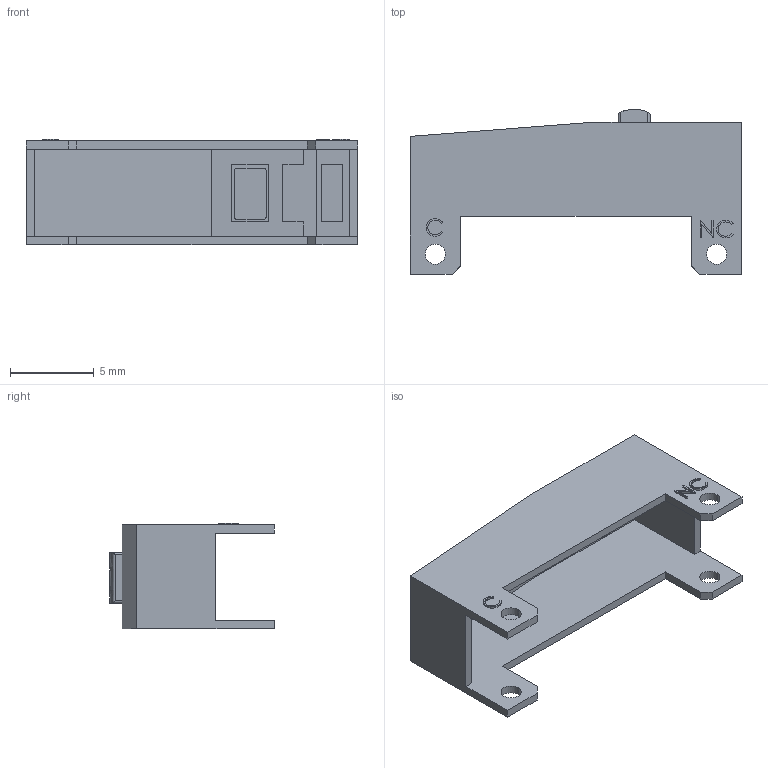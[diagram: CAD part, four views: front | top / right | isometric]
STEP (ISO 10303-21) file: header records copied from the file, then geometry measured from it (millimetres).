
FILE_DESCRIPTION (( 'STEP AP214' ), '1' );
FILE_NAME ('limit-switch-top-case.STEP', '2018-02-15T22:13:11', ( '' ), ( '' ), 'SwSTEP 2.0', 'SolidWorks 2018', '' );
FILE_SCHEMA (( 'AUTOMOTIVE_DESIGN' ));
Length unit declared in the file: millimetre
Products named in the file (1): limit-switch-top-case
Bounding box: 19.75 x 9.81 x 6.3 mm (x, y, z)
Volume: 196.8 mm3; surface area: 875 mm2
Topology: 1 solids, 1 shells, 99 faces, 270 edges, 180 vertices
Faces by surface type: plane 68, bspline 19, cylinder 12
Entity records: 4241 total; most frequent: CARTESIAN_POINT 1801, ORIENTED_EDGE 540, DIRECTION 410, EDGE_CURVE 270, VECTOR 208, LINE 208, VERTEX_POINT 180, EDGE_LOOP 114
